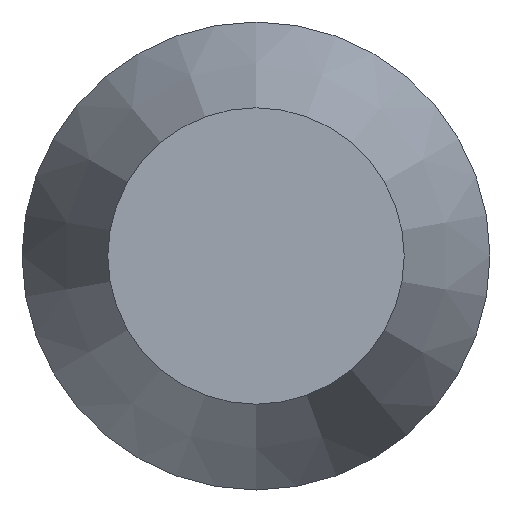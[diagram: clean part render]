
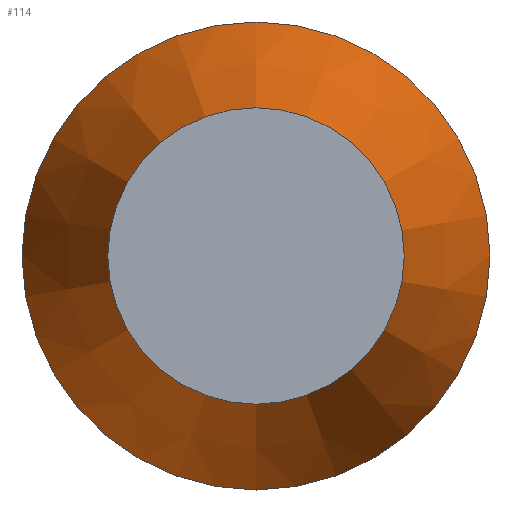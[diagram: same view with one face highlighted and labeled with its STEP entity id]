
A CAD part, left-side view. The second image highlights one B-rep face of the part: STEP entity #114.
In plain terms, the highlighted conical face has half-angle 20 degrees and reference radius 3 mm.
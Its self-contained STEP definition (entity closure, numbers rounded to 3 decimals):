
#95=CONICAL_SURFACE('',#181,3.,20.);
#102=FACE_BOUND('',#128,.T.);
#103=FACE_BOUND('',#129,.T.);
#114=ADVANCED_FACE('',(#102,#103),#95,.T.);
#128=EDGE_LOOP('',(#142));
#129=EDGE_LOOP('',(#143));
#142=ORIENTED_EDGE('',*,*,#162,.F.);
#143=ORIENTED_EDGE('',*,*,#163,.T.);
#155=VERTEX_POINT('',#229);
#156=VERTEX_POINT('',#232);
#162=EDGE_CURVE('',#155,#155,#169,.T.);
#163=EDGE_CURVE('',#156,#156,#170,.T.);
#169=CIRCLE('',#178,1.4);
#170=CIRCLE('',#180,3.);
#178=AXIS2_PLACEMENT_3D('',#228,#198,#199);
#180=AXIS2_PLACEMENT_3D('',#231,#202,#203);
#181=AXIS2_PLACEMENT_3D('',#233,#204,#205);
#198=DIRECTION('',(-1.,0.,0.));
#199=DIRECTION('',(0.,0.,1.));
#202=DIRECTION('',(-1.,0.,0.));
#203=DIRECTION('',(0.,0.,1.));
#204=DIRECTION('',(1.,0.,0.));
#205=DIRECTION('',(0.,0.,-1.));
#228=CARTESIAN_POINT('',(7906.412,6103.288,0.));
#229=CARTESIAN_POINT('',(7906.412,6103.288,1.4));
#231=CARTESIAN_POINT('',(7910.808,6103.288,0.));
#232=CARTESIAN_POINT('',(7910.808,6103.288,3.));
#233=CARTESIAN_POINT('',(7910.808,6103.288,0.));
